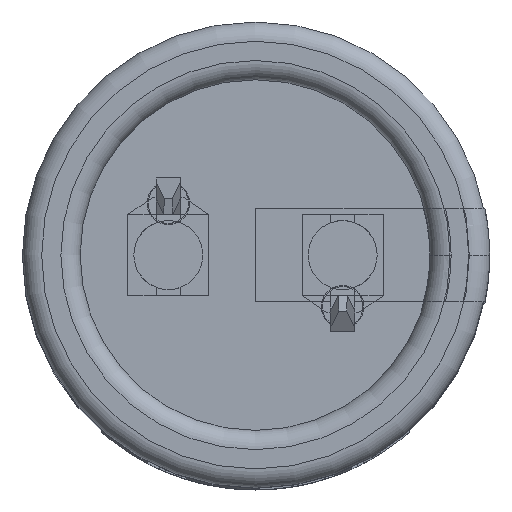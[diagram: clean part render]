
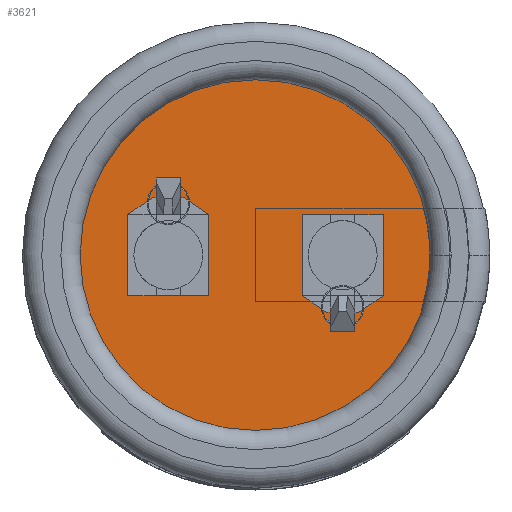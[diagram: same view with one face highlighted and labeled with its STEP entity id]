
A CAD part, top view. The second image highlights one B-rep face of the part: STEP entity #3621.
In plain terms, the highlighted planar face has unit normal (0, 0, 1).
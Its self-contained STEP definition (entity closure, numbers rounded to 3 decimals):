
#3528 = VERTEX_POINT('',#3529);
#3529 = CARTESIAN_POINT('',(8.65,0.,0.01));
#3536 = CYLINDRICAL_SURFACE('',#3537,8.65);
#3537 = AXIS2_PLACEMENT_3D('',#3538,#3539,#3540);
#3538 = CARTESIAN_POINT('',(0.,0.,0.));
#3539 = DIRECTION('',(0.,0.,-1.));
#3540 = DIRECTION('',(1.,0.,0.));
#3555 = EDGE_CURVE('',#3528,#3528,#3556,.T.);
#3556 = SURFACE_CURVE('',#3557,(#3562,#3569),.PCURVE_S1.);
#3557 = CIRCLE('',#3558,8.65);
#3558 = AXIS2_PLACEMENT_3D('',#3559,#3560,#3561);
#3559 = CARTESIAN_POINT('',(0.,0.,0.01));
#3560 = DIRECTION('',(0.,0.,1.));
#3561 = DIRECTION('',(1.,0.,0.));
#3562 = PCURVE('',#3536,#3563);
#3563 = DEFINITIONAL_REPRESENTATION('',(#3564),#3568);
#3564 = LINE('',#3565,#3566);
#3565 = CARTESIAN_POINT('',(0.,-0.01));
#3566 = VECTOR('',#3567,1.);
#3567 = DIRECTION('',(-1.,0.));
#3568 = ( GEOMETRIC_REPRESENTATION_CONTEXT(2) 
PARAMETRIC_REPRESENTATION_CONTEXT() REPRESENTATION_CONTEXT('2D SPACE',''
  ) );
#3569 = PCURVE('',#3570,#3575);
#3570 = PLANE('',#3571);
#3571 = AXIS2_PLACEMENT_3D('',#3572,#3573,#3574);
#3572 = CARTESIAN_POINT('',(8.65,0.,0.01));
#3573 = DIRECTION('',(0.,0.,-1.));
#3574 = DIRECTION('',(-1.,0.,0.));
#3575 = DEFINITIONAL_REPRESENTATION('',(#3576),#3584);
#3576 = ( BOUNDED_CURVE() B_SPLINE_CURVE(2,(#3577,#3578,#3579,#3580,
#3581,#3582,#3583),.UNSPECIFIED.,.F.,.F.) B_SPLINE_CURVE_WITH_KNOTS((1,2
    ,2,2,2,1),(-2.094,0.,2.094,4.189,
6.283,8.378),.UNSPECIFIED.) CURVE() 
GEOMETRIC_REPRESENTATION_ITEM() RATIONAL_B_SPLINE_CURVE((1.,0.5,1.,0.5,
1.,0.5,1.)) REPRESENTATION_ITEM('') );
#3577 = CARTESIAN_POINT('',(0.,0.));
#3578 = CARTESIAN_POINT('',(0.,14.982));
#3579 = CARTESIAN_POINT('',(12.975,7.491));
#3580 = CARTESIAN_POINT('',(25.95,0.));
#3581 = CARTESIAN_POINT('',(12.975,-7.491));
#3582 = CARTESIAN_POINT('',(0.,-14.982));
#3583 = CARTESIAN_POINT('',(0.,0.));
#3584 = ( GEOMETRIC_REPRESENTATION_CONTEXT(2) 
PARAMETRIC_REPRESENTATION_CONTEXT() REPRESENTATION_CONTEXT('2D SPACE',''
  ) );
#3621 = ADVANCED_FACE('',(#3622),#3570,.F.);
#3622 = FACE_BOUND('',#3623,.T.);
#3623 = EDGE_LOOP('',(#3624));
#3624 = ORIENTED_EDGE('',*,*,#3555,.T.);
